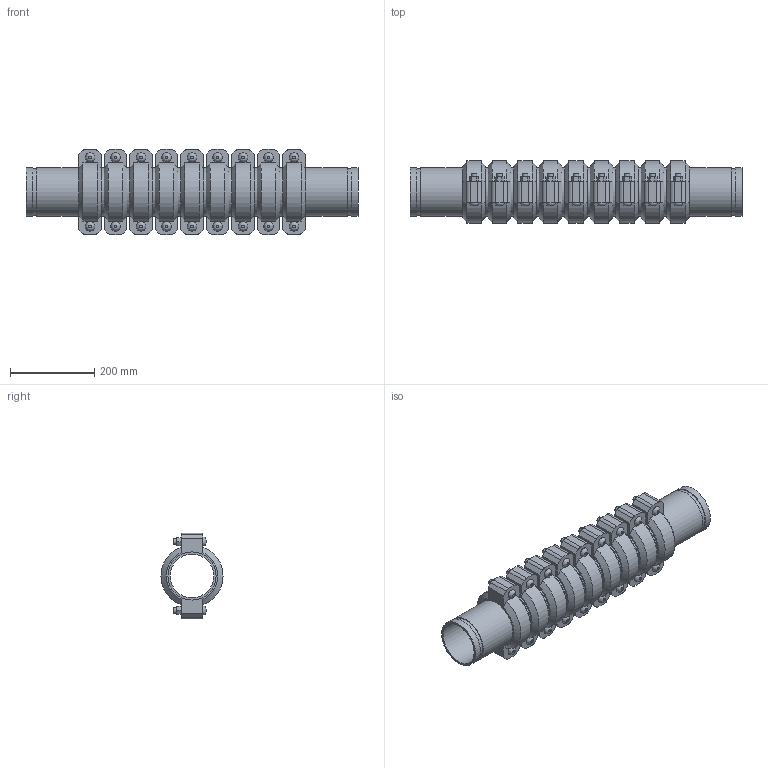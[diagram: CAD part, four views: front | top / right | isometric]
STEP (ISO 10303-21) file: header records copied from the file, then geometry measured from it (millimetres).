
FILE_DESCRIPTION(/* description */ ('VIC EXPANSION JOINT 9 COUPLINGS COMPRESSED STYLE 155 (OGS)','CAx-IF Rec.Pracs.---Representation and Presentation of Product Manufacturing Information (PMI)---4.0---2014-10-13'),/* implementation_level */ '2;1');
FILE_NAME(/* name */ 'C:\Users\kkamble\AppData\Roaming\Autodesk\ApplicationPlugins\Victaulic.Temp\A901\Victaulic_IPS_Expansion Joint_Compressed_9 Couplings_Style 155 (OGS)_4 (100).stp',/* time_stamp */ '2021-06-27T00:38:30+02:00',/* author */ ('kkamble'),/* organization */ ('Victaulic'),/* preprocessor_version */ 'ST-DEVELOPER v17.2',/* originating_system */ 'Autodesk Inventor 2019',/* authorisation */ '');
FILE_SCHEMA (('AP242_MANAGED_MODEL_BASED_3D_ENGINEERING_MIM_LF { 1 0 10303 442 1 1 4 }'));
Length unit declared in the file: inch
Products named in the file (4): 155-04.0; Nipple-04.0; Nipple-04.0_1; 075_9_Coup-04.0
Assembly tree (19 placements, depth 2):
  155-04.0
    Nipple-04.0  x2
    Nipple-04.0_1  x8
    075_9_Coup-04.0  x9
Bounding box: 787.65 x 147.32 x 203.96 mm (x, y, z)
Volume: 5565792.5 mm3; surface area: 1302238.7 mm2
Topology: 19 solids, 37 shells, 633 faces, 1497 edges, 1050 vertices
Faces by surface type: plane 384, cylinder 195, cone 36, bspline 18
Full cylindrical faces by diameter (mm): 12.7 x36, 14.605 x18, 103.988 x10, 107.95 x9, 110.084 x20, 114.3 x48
Entity records: 2874 total; most frequent: CARTESIAN_POINT 503, DIRECTION 481, ORIENTED_EDGE 386, AXIS2_PLACEMENT_3D 194, EDGE_CURVE 193, VERTEX_POINT 138, EDGE_LOOP 107, LINE 93
